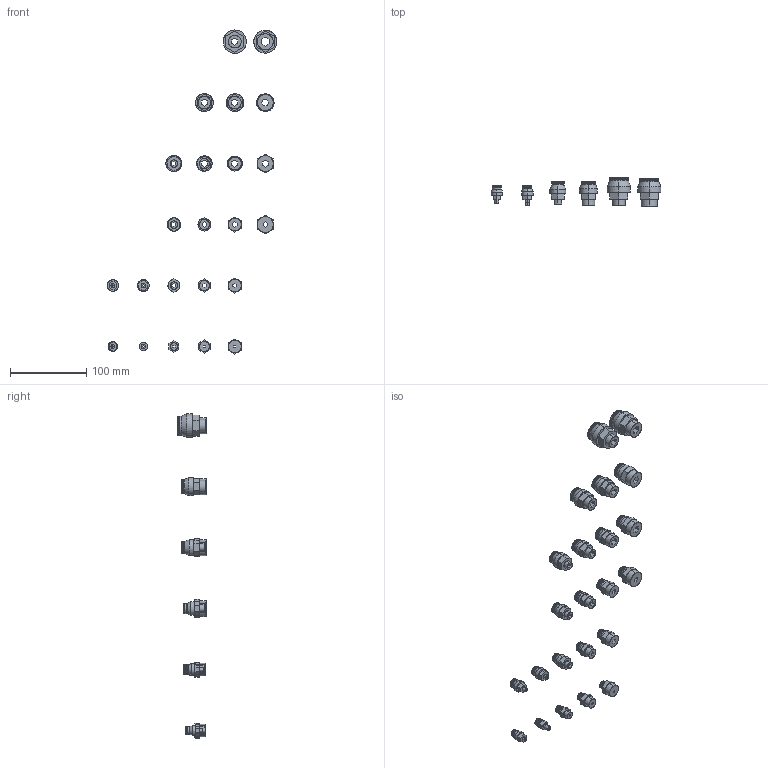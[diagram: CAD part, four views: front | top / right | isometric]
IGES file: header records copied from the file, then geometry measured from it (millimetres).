
Start section: SolidWorks IGES file using analytic representation for surfaces
Global section: file name: D:\GrabCAD\TEMPLATES BLOCOS SOLIDWORKS\BIBLIOTECA COMPONENTES\PNEUMATICA\CONEXÕES\CONEXAO RETA\CONEXÃO RETA.IGS; native system: SolidWorks 2017; preprocessor: SolidWorks 2017; author: WINDOWS 10 PRO; date: 190325.012614; units: millimetre
Bounding box: 222.62 x 37.5 x 425.1 mm (x, y, z)
Surface area: 60419.6 mm2 (no closed solid volume)
Topology: 0 solids, 0 shells, 814 faces, 10616 edges, 10616 vertices
Faces by surface type: bspline 492, revolution 322
